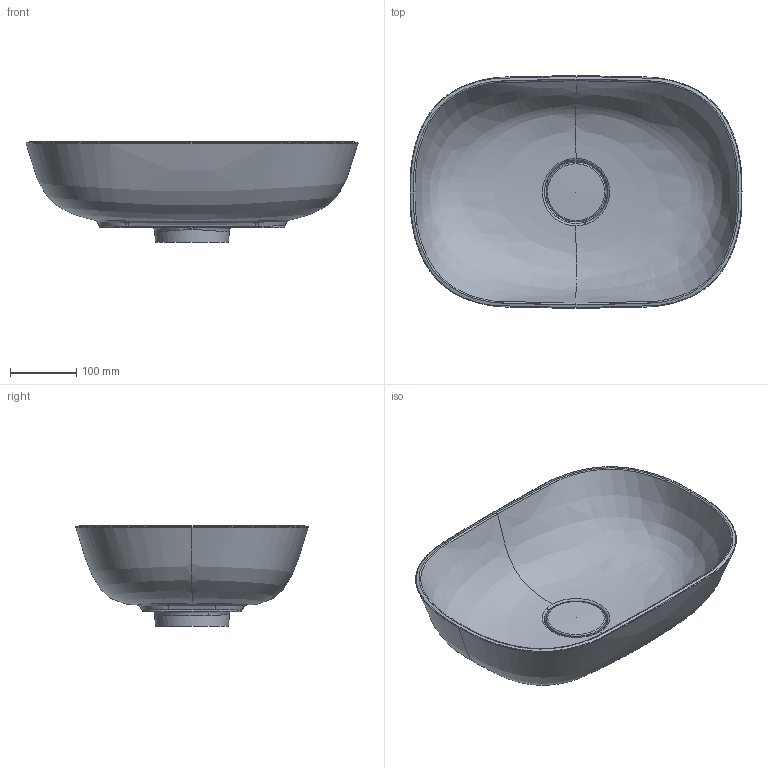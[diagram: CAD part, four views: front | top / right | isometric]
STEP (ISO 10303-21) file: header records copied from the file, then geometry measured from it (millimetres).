
FILE_DESCRIPTION(/* description */ (''),/* implementation_level */ '2;1');
FILE_NAME(/* name */ 'c:\worker\convert-fusion-r08\tmp\job-1\7\output\files\2a1c41d6-0359-433a-9dd7-dd60db6a96b5\afd48821-1e5a-4596-9095-440ce16c2c2d.stp',/* time_stamp */ '2019-11-22T15:04:36+00:00',/* author */ (''),/* organization */ (''),/* preprocessor_version */ 'ST-DEVELOPER v18',/* originating_system */ 'Autodesk Translation Framework v8.12.0.6',/* authorisation */ '');
FILE_SCHEMA (('AUTOMOTIVE_DESIGN { 1 0 10303 214 3 1 1 }'));
Length unit declared in the file: millimetre
Products named in the file (1): SILK500BP
Bounding box: 500.35 x 350.04 x 151.12 mm (x, y, z)
Volume: 3685223.1 mm3; surface area: 501129.7 mm2
Topology: 2 solids, 2 shells, 104 faces, 285 edges, 180 vertices
Faces by surface type: bspline 69, cone 15, plane 13, torus 5, sphere 1, cylinder 1
Full cylindrical faces by diameter (mm): 44 x1
Entity records: 22273 total; most frequent: CARTESIAN_POINT 20046, ORIENTED_EDGE 560, DIRECTION 337, EDGE_CURVE 280, VERTEX_POINT 180, AXIS2_PLACEMENT_3D 147, B_SPLINE_CURVE_WITH_KNOTS 126, CIRCLE 107
